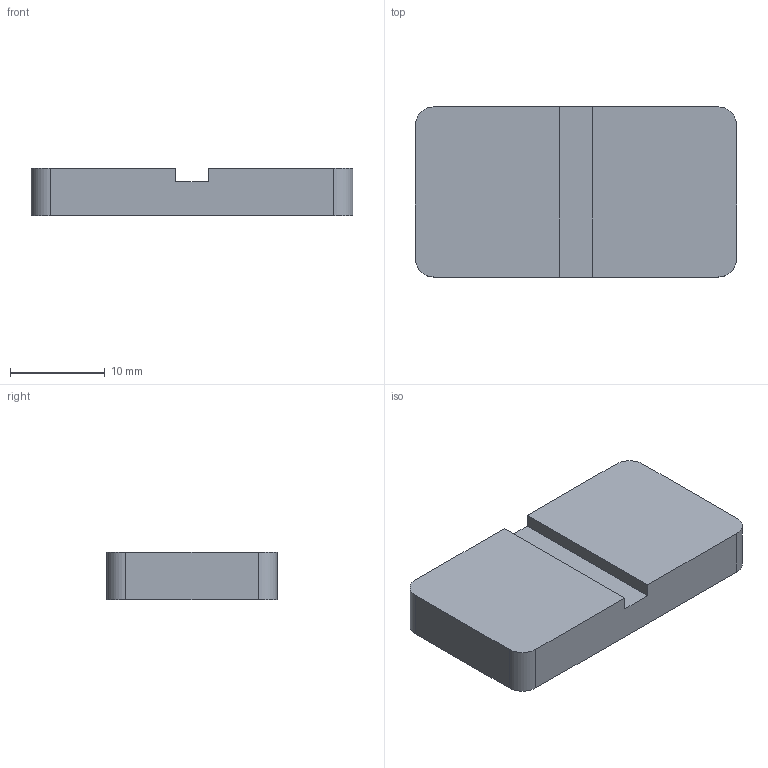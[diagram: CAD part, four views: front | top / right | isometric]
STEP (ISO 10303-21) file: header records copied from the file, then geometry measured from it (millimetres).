
FILE_DESCRIPTION(('FreeCAD Model'),'2;1');
FILE_NAME('Open CASCADE Shape Model','2026-09-29T21:58:28',('Author'),( ''),'Open CASCADE STEP processor 7.8','FreeCAD','Unknown');
FILE_SCHEMA(('AUTOMOTIVE_DESIGN { 1 0 10303 214 1 1 1 1 }'));
Length unit declared in the file: millimetre
Products named in the file (1): face_stop_coupon_1p4
Bounding box: 34 x 18 x 5 mm (x, y, z)
Volume: 2957.2 mm3; surface area: 1760.8 mm2
Topology: 1 solids, 1 shells, 14 faces, 36 edges, 24 vertices
Faces by surface type: plane 10, cylinder 4
Entity records: 438 total; most frequent: CARTESIAN_POINT 75, DIRECTION 74, ORIENTED_EDGE 72, EDGE_CURVE 36, LINE 28, VECTOR 28, VERTEX_POINT 24, AXIS2_PLACEMENT_3D 23
